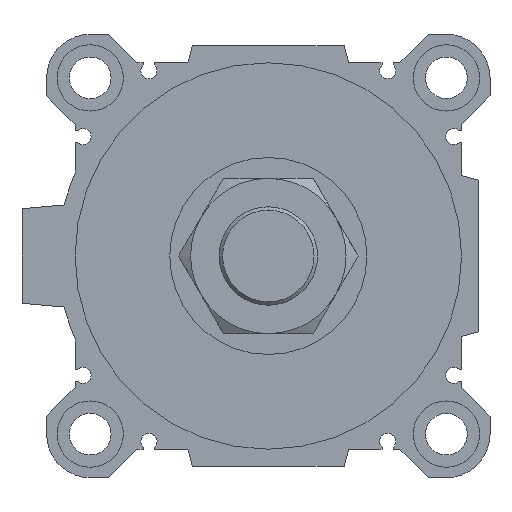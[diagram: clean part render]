
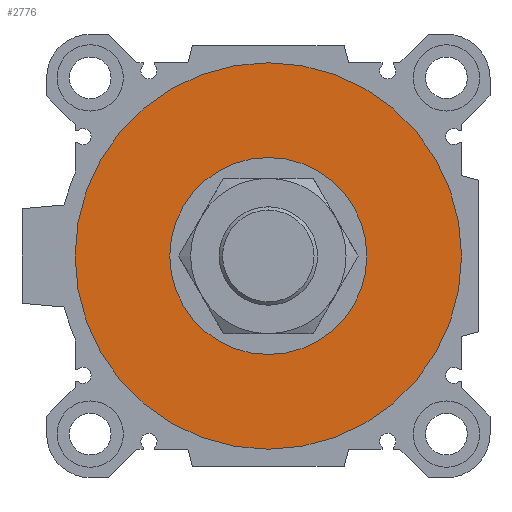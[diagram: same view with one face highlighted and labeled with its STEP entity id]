
A CAD part, left-side view. The second image highlights one B-rep face of the part: STEP entity #2776.
In plain terms, the highlighted planar face has unit normal (-1, 0, 0).
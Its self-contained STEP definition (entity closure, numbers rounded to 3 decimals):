
#363 = AXIS2_PLACEMENT_3D ( 'NONE', #1974, #4402, #1380 ) ;
#618 = DIRECTION ( 'NONE',  ( 0., 0., -1. ) ) ;
#1213 = VERTEX_POINT ( 'NONE', #6756 ) ;
#1268 = EDGE_CURVE ( 'NONE', #1213, #2631, #6150, .T. ) ;
#1380 = DIRECTION ( 'NONE',  ( 0., 0., -1. ) ) ;
#1938 = EDGE_LOOP ( 'NONE', ( #7050, #7357 ) ) ;
#1974 = CARTESIAN_POINT ( 'NONE',  ( 6.5, 0., 0. ) ) ;
#2040 = DIRECTION ( 'NONE',  ( 1., 0., 0. ) ) ;
#2084 = EDGE_CURVE ( 'NONE', #2631, #1213, #6359, .T. ) ;
#2252 = AXIS2_PLACEMENT_3D ( 'NONE', #5508, #2040, #5152 ) ;
#2408 = CARTESIAN_POINT ( 'NONE',  ( 6.5, 0., 0. ) ) ;
#2631 = VERTEX_POINT ( 'NONE', #4848 ) ;
#2776 = ADVANCED_FACE ( 'NONE', ( #4446, #4931 ), #6865, .F. ) ;
#2906 = CIRCLE ( 'NONE', #363, 26. ) ;
#3371 = EDGE_LOOP ( 'NONE', ( #3629, #6694 ) ) ;
#3615 = EDGE_CURVE ( 'NONE', #6740, #7378, #5689, .T. ) ;
#3629 = ORIENTED_EDGE ( 'NONE', *, *, #1268, .F. ) ;
#3642 = DIRECTION ( 'NONE',  ( 1., 0., 0. ) ) ;
#3690 = CARTESIAN_POINT ( 'NONE',  ( 6.5, 0., -26. ) ) ;
#4320 = DIRECTION ( 'NONE',  ( 0., 1., 0. ) ) ;
#4402 = DIRECTION ( 'NONE',  ( 1., 0., 0. ) ) ;
#4446 = FACE_OUTER_BOUND ( 'NONE', #3371, .T. ) ;
#4585 = CARTESIAN_POINT ( 'NONE',  ( 6.5, 0., 0. ) ) ;
#4848 = CARTESIAN_POINT ( 'NONE',  ( 6.5, 0., -51. ) ) ;
#4931 = FACE_BOUND ( 'NONE', #1938, .T. ) ;
#5092 = AXIS2_PLACEMENT_3D ( 'NONE', #2408, #3642, #618 ) ;
#5152 = DIRECTION ( 'NONE',  ( 0., 0., -1. ) ) ;
#5254 = EDGE_CURVE ( 'NONE', #7378, #6740, #2906, .T. ) ;
#5397 = AXIS2_PLACEMENT_3D ( 'NONE', #4585, #5703, #6449 ) ;
#5508 = CARTESIAN_POINT ( 'NONE',  ( 6.5, 0., 0. ) ) ;
#5688 = DIRECTION ( 'NONE',  ( 1., 0., 0. ) ) ;
#5689 = CIRCLE ( 'NONE', #2252, 26. ) ;
#5703 = DIRECTION ( 'NONE',  ( 1., 0., 0. ) ) ;
#6150 = CIRCLE ( 'NONE', #5397, 51. ) ;
#6276 = CARTESIAN_POINT ( 'NONE',  ( 6.5, 0., 0. ) ) ;
#6359 = CIRCLE ( 'NONE', #5092, 51. ) ;
#6430 = AXIS2_PLACEMENT_3D ( 'NONE', #6276, #5688, #4320 ) ;
#6449 = DIRECTION ( 'NONE',  ( 0., 0., -1. ) ) ;
#6694 = ORIENTED_EDGE ( 'NONE', *, *, #2084, .F. ) ;
#6740 = VERTEX_POINT ( 'NONE', #7656 ) ;
#6756 = CARTESIAN_POINT ( 'NONE',  ( 6.5, 0., 51. ) ) ;
#6865 = PLANE ( 'NONE',  #6430 ) ;
#7050 = ORIENTED_EDGE ( 'NONE', *, *, #3615, .T. ) ;
#7357 = ORIENTED_EDGE ( 'NONE', *, *, #5254, .T. ) ;
#7378 = VERTEX_POINT ( 'NONE', #3690 ) ;
#7656 = CARTESIAN_POINT ( 'NONE',  ( 6.5, 0., 26. ) ) ;
